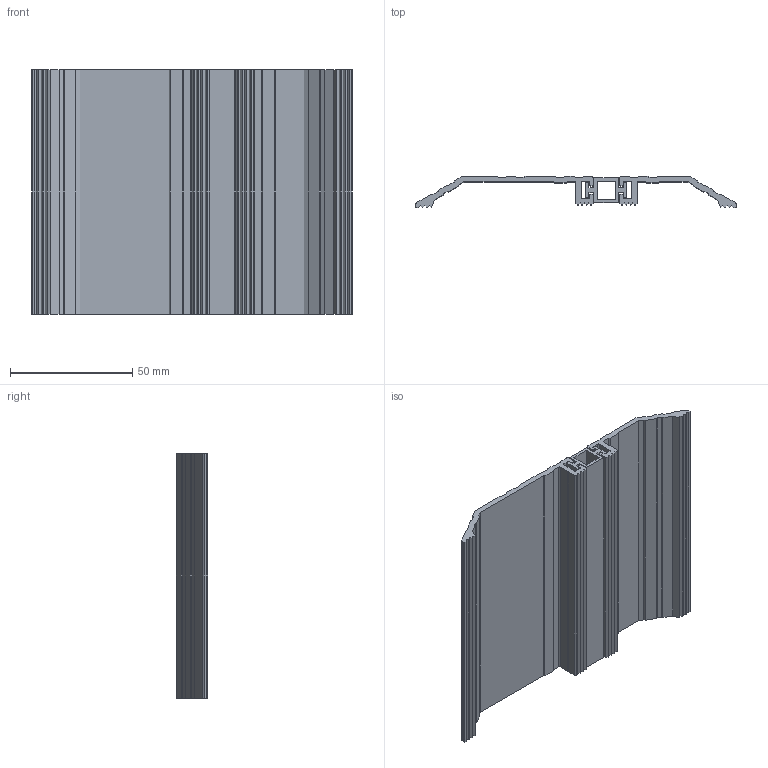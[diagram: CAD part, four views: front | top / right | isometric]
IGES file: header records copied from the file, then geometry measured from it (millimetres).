
Global section: file name: No Iges File Name specified; native system: Autodesk Inventor 2012; preprocessor: AutoDesk Inventor Iges Exporter R2012; author: anna.b; date: 20130725.115219; units: millimetre
Bounding box: 130.94 x 12.7 x 100 mm (x, y, z)
Volume: 43844.5 mm3; surface area: 45008.4 mm2
Topology: 3 solids, 3 shells, 194 faces, 564 edges, 376 vertices
Faces by surface type: plane 168, cylinder 16, revolution 10
